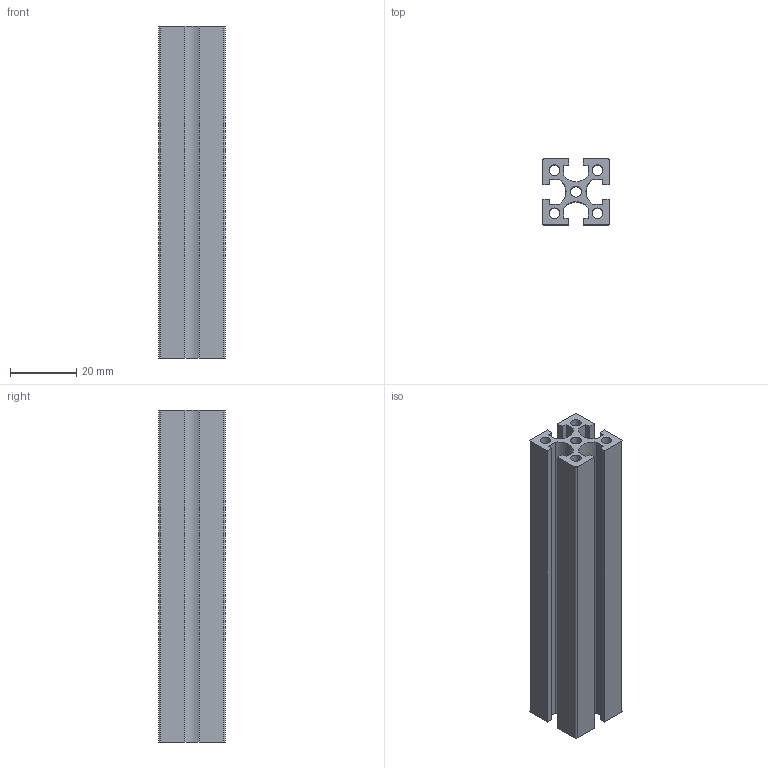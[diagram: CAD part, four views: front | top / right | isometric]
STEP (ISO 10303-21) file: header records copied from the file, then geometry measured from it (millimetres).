
FILE_DESCRIPTION(/* description */ (''),/* implementation_level */ '2;1');
FILE_NAME(/* name */ 'C:\Users\AM\Desktop\新增資料夾 (7)\AM4-2020.stp',/* time_stamp */ '2020-08-03T15:07:12+08:00',/* author */ ('AM'),/* organization */ (''),/* preprocessor_version */ 'ST-DEVELOPER v16.5',/* originating_system */ 'Autodesk Inventor 2017',/* authorisation */ '');
FILE_SCHEMA (('AUTOMOTIVE_DESIGN { 1 0 10303 214 3 1 1 }'));
Length unit declared in the file: millimetre
Products named in the file (1): 零件3
Bounding box: 20 x 20 x 100 mm (x, y, z)
Volume: 19087.2 mm3; surface area: 20293.8 mm2
Topology: 1 solids, 1 shells, 47 faces, 135 edges, 90 vertices
Faces by surface type: plane 34, cylinder 13
Full cylindrical faces by diameter (mm): 3.2 x4, 3.3 x1
Entity records: 1554 total; most frequent: CARTESIAN_POINT 268, ORIENTED_EDGE 260, DIRECTION 252, EDGE_CURVE 130, LINE 104, VECTOR 104, VERTEX_POINT 90, AXIS2_PLACEMENT_3D 74
